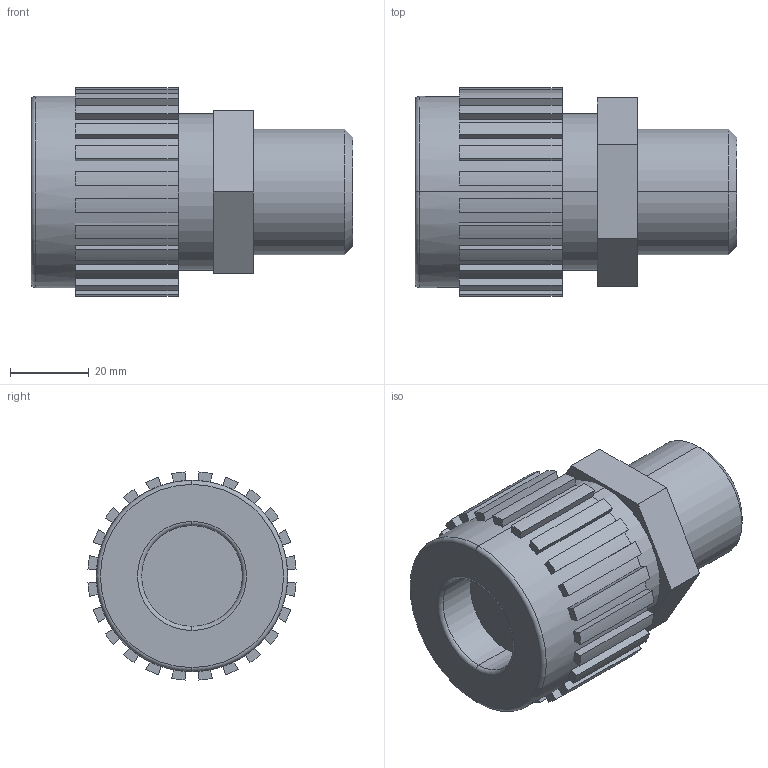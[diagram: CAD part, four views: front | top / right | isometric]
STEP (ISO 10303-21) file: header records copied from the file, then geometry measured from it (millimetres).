
FILE_DESCRIPTION (( 'STEP AP214' ), '1' );
FILE_NAME ('Fitting Pillar S-300 16.STEP', '2012-09-26T16:28:08', ( '' ), ( '' ), 'SwSTEP 2.0', 'SolidWorks 2012', '' );
FILE_SCHEMA (( 'AUTOMOTIVE_DESIGN' ));
Length unit declared in the file: inch
Products named in the file (1): Fitting Pillar S-300 16
Bounding box: 81.55 x 52.72 x 52.72 mm (x, y, z)
Volume: 113196.9 mm3; surface area: 19018.7 mm2
Topology: 1 solids, 1 shells, 122 faces, 342 edges, 226 vertices
Faces by surface type: plane 84, cylinder 32, torus 4, cone 2
Entity records: 4039 total; most frequent: DIRECTION 710, CARTESIAN_POINT 691, ORIENTED_EDGE 684, EDGE_CURVE 342, AXIS2_PLACEMENT_3D 245, VERTEX_POINT 226, VECTOR 220, LINE 220
